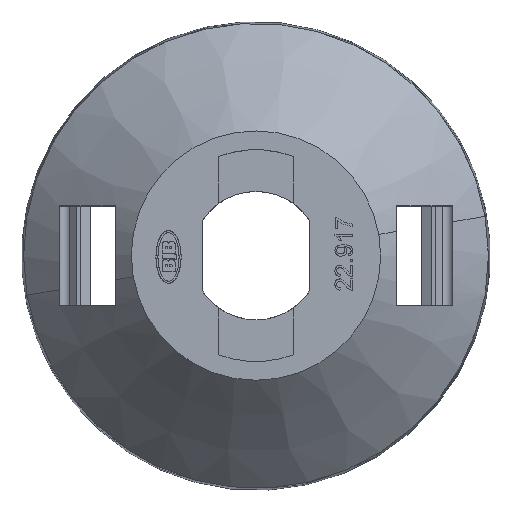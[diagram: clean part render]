
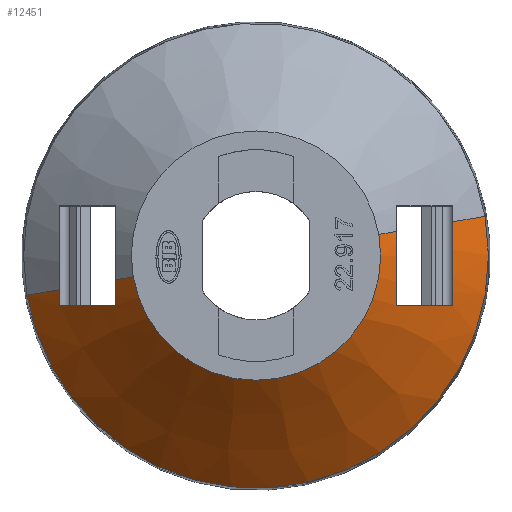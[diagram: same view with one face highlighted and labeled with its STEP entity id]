
A CAD part, top view. The second image highlights one B-rep face of the part: STEP entity #12451.
In plain terms, the highlighted conical face has half-angle 45 degrees and reference radius 18.645 mm.
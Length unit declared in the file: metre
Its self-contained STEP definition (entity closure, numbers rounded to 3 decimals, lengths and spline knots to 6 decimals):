
#8091= CARTESIAN_POINT(' ',(-0.009854,-0.0017,0.0175));
#8092= VERTEX_POINT(' ',#8091);
#8096= CARTESIAN_POINT(' ',(0.009854,0.0017,0.0175));
#8097= VERTEX_POINT(' ',#8096);
#8111= CARTESIAN_POINT(' ',(0.,0.,0.0175));
#8116= DIRECTION(' ',(0.,0.,-1.));
#8121= DIRECTION(' ',(0.985,0.17,0.));
#8126= AXIS2_PLACEMENT_3D(' ',#8111,#8116,#8121);
#8131= CIRCLE(' ',#8126,0.01);
#8136= EDGE_CURVE(' ',#8097,#8092,#8131,.T.);
#11611= CARTESIAN_POINT(' ',(0.018374,0.003169,0.008855));
#11612= VERTEX_POINT(' ',#11611);
#11651= CARTESIAN_POINT(' ',(-0.018374,-0.003169,0.008855));
#11652= VERTEX_POINT(' ',#11651);
#11666= CARTESIAN_POINT(' ',(-0.018374,-0.003169,0.008855));
#11671= DIRECTION(' ',(0.697,0.12,0.707));
#11676= VECTOR(' ',#11671,1.);
#11681= LINE(' ',#11666,#11676);
#11686= CARTESIAN_POINT(' ',(-0.0158,-0.002725,0.011467));
#11687= VERTEX_POINT(' ',#11686);
#11691= EDGE_CURVE(' ',#11652,#11687,#11681,.T.);
#11816= CARTESIAN_POINT(' ',(-0.01125,-0.00194,0.016084));
#11817= VERTEX_POINT(' ',#11816);
#11831= CARTESIAN_POINT(' ',(-0.01125,-0.00194,0.016084));
#11836= DIRECTION(' ',(0.697,0.12,0.707));
#11841= VECTOR(' ',#11836,1.);
#11846= LINE(' ',#11831,#11841);
#11851= EDGE_CURVE(' ',#11817,#8092,#11846,.T.);
#11866= CARTESIAN_POINT(' ',(0.009854,0.0017,0.0175));
#11871= DIRECTION(' ',(0.697,0.12,-0.707));
#11876= VECTOR(' ',#11871,1.);
#11881= LINE(' ',#11866,#11876);
#11886= CARTESIAN_POINT(' ',(0.01125,0.00194,0.016084));
#11887= VERTEX_POINT(' ',#11886);
#11891= EDGE_CURVE(' ',#8097,#11887,#11881,.T.);
#12006= CARTESIAN_POINT(' ',(0.0158,0.002725,0.011467));
#12007= VERTEX_POINT(' ',#12006);
#12021= CARTESIAN_POINT(' ',(0.0158,0.002725,0.011467));
#12026= DIRECTION(' ',(0.697,0.12,-0.707));
#12031= VECTOR(' ',#12026,1.);
#12036= LINE(' ',#12021,#12031);
#12041= EDGE_CURVE(' ',#12007,#11612,#12036,.T.);
#12066= CARTESIAN_POINT(' ',(0.,0.,0.008855));
#12071= DIRECTION(' ',(0.,0.,-1.));
#12076= DIRECTION(' ',(-0.985,-0.17,0.));
#12081= AXIS2_PLACEMENT_3D(' ',#12066,#12071,#12076);
#12086= CONICAL_SURFACE(' ',#12081,0.018645,45.);
#12091= CARTESIAN_POINT(' ',(0.0158,0.002725,0.011467));
#12096= CARTESIAN_POINT(' ',(0.0158,0.001058,0.01175));
#12101= CARTESIAN_POINT(' ',(0.0158,-0.000624,0.011774));
#12106= CARTESIAN_POINT(' ',(0.0158,-0.002868,0.011452));
#12111= CARTESIAN_POINT(' ',(0.0158,-0.003437,0.01134));
#12116= CARTESIAN_POINT(' ',(0.0158,-0.004,0.011202));
#12121= B_SPLINE_CURVE_WITH_KNOTS(' ',3,(#12091,#12096,#12101,#12106,#12111,#12116),.UNSPECIFIED.,.F.,.U.,(4,2,4),(0.,0.743008,1.),.UNSPECIFIED.);
#12126= CARTESIAN_POINT(' ',(0.0158,-0.004,0.011202));
#12127= VERTEX_POINT(' ',#12126);
#12131= EDGE_CURVE(' ',#12007,#12127,#12121,.T.);
#12136= ORIENTED_EDGE(' ',*,*,#12131,.T.);
#12141= CARTESIAN_POINT(' ',(-0.303942,-0.003863,-0.318033));
#12146= DIRECTION(' ',(0.,-1.,0.));
#12151= DIRECTION(' ',(0.697,0.,0.717));
#12156= AXIS2_PLACEMENT_3D(' ',#12141,#12146,#12151);
#12161= CIRCLE(' ',#12156,0.458945);
#12166= CARTESIAN_POINT(' ',(0.01125,-0.004,0.01556));
#12167= VERTEX_POINT(' ',#12166);
#12171= EDGE_CURVE(' ',#12127,#12167,#12161,.T.);
#12176= ORIENTED_EDGE(' ',*,*,#12171,.T.);
#12181= CARTESIAN_POINT(' ',(0.01125,-0.004,0.01556));
#12186= CARTESIAN_POINT(' ',(0.01125,-0.002583,0.016035));
#12191= CARTESIAN_POINT(' ',(0.01125,-0.001108,0.016297));
#12196= CARTESIAN_POINT(' ',(0.01125,0.000923,0.016224));
#12201= CARTESIAN_POINT(' ',(0.01125,0.001434,0.01617));
#12206= CARTESIAN_POINT(' ',(0.01125,0.00194,0.016084));
#12211= B_SPLINE_CURVE_WITH_KNOTS(' ',3,(#12181,#12186,#12191,#12196,#12201,#12206),.UNSPECIFIED.,.F.,.U.,(4,2,4),(0.,0.743008,1.),.UNSPECIFIED.);
#12216= EDGE_CURVE(' ',#12167,#11887,#12211,.T.);
#12221= ORIENTED_EDGE(' ',*,*,#12216,.T.);
#12226= ORIENTED_EDGE(' ',*,*,#11891,.F.);
#12231= ORIENTED_EDGE(' ',*,*,#8136,.T.);
#12236= ORIENTED_EDGE(' ',*,*,#11851,.F.);
#12241= CARTESIAN_POINT(' ',(-0.01125,0.000408,0.002541));
#12246= DIRECTION(' ',(-1.,0.,0.));
#12251= DIRECTION(' ',(0.,-0.321,0.947));
#12256= AXIS2_PLACEMENT_3D(' ',#12241,#12246,#12251);
#12261= CIRCLE(' ',#12256,0.013745);
#12266= CARTESIAN_POINT(' ',(-0.01125,-0.004,0.01556));
#12267= VERTEX_POINT(' ',#12266);
#12271= EDGE_CURVE(' ',#12267,#11817,#12261,.T.);
#12276= ORIENTED_EDGE(' ',*,*,#12271,.F.);
#12281= CARTESIAN_POINT(' ',(0.304108,-0.004049,-0.318208));
#12286= DIRECTION(' ',(0.,1.,0.));
#12291= DIRECTION(' ',(-0.697,0.,0.717));
#12296= AXIS2_PLACEMENT_3D(' ',#12281,#12286,#12291);
#12301= CIRCLE(' ',#12296,0.459186);
#12306= CARTESIAN_POINT(' ',(-0.0158,-0.004,0.011202));
#12307= VERTEX_POINT(' ',#12306);
#12311= EDGE_CURVE(' ',#12307,#12267,#12301,.T.);
#12316= ORIENTED_EDGE(' ',*,*,#12311,.F.);
#12321= CARTESIAN_POINT(' ',(-0.015802,0.000299,-0.006268));
#12326= DIRECTION(' ',(1.,0.,0.));
#12331= DIRECTION(' ',(0.,-0.168,0.986));
#12336= AXIS2_PLACEMENT_3D(' ',#12321,#12326,#12331);
#12341= CIRCLE(' ',#12336,0.01799);
#12346= EDGE_CURVE(' ',#11687,#12307,#12341,.T.);
#12351= ORIENTED_EDGE(' ',*,*,#12346,.F.);
#12356= ORIENTED_EDGE(' ',*,*,#11691,.F.);
#12361= CARTESIAN_POINT(' ',(0.,0.,0.008855));
#12366= DIRECTION(' ',(0.,0.,-1.));
#12371= DIRECTION(' ',(-0.107,-0.994,0.));
#12376= AXIS2_PLACEMENT_3D(' ',#12361,#12366,#12371);
#12381= CIRCLE(' ',#12376,0.018645);
#12386= CARTESIAN_POINT(' ',(-0.001995,-0.018538,0.008855));
#12387= VERTEX_POINT(' ',#12386);
#12391= EDGE_CURVE(' ',#12387,#11652,#12381,.T.);
#12396= ORIENTED_EDGE(' ',*,*,#12391,.F.);
#12401= CARTESIAN_POINT(' ',(0.,0.,0.008855));
#12406= DIRECTION(' ',(0.,0.,-1.));
#12411= DIRECTION(' ',(0.985,0.17,0.));
#12416= AXIS2_PLACEMENT_3D(' ',#12401,#12406,#12411);
#12421= CIRCLE(' ',#12416,0.018645);
#12426= EDGE_CURVE(' ',#11612,#12387,#12421,.T.);
#12431= ORIENTED_EDGE(' ',*,*,#12426,.F.);
#12436= ORIENTED_EDGE(' ',*,*,#12041,.F.);
#12441= EDGE_LOOP(' ',(#12136,#12176,#12221,#12226,#12231,#12236,#12276,#12316,#12351,#12356,#12396,#12431,#12436));
#12446= FACE_OUTER_BOUND(' ',#12441,.T.);
#12451= ADVANCED_FACE(' ',(#12446),#12086,.T.);
